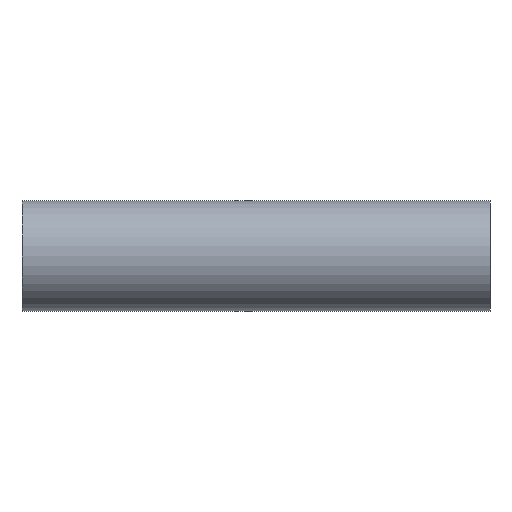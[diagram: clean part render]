
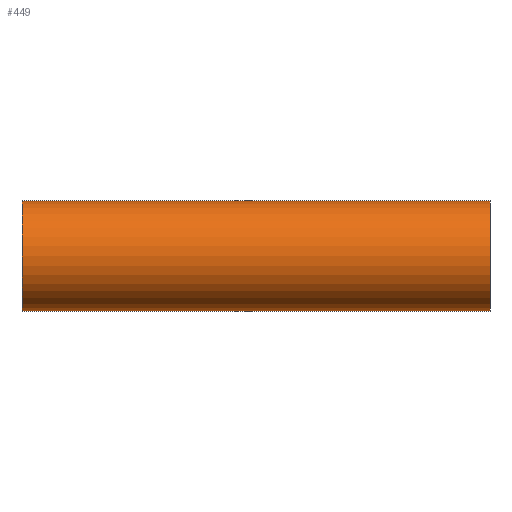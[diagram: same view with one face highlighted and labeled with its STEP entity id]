
A CAD part, front view. The second image highlights one B-rep face of the part: STEP entity #449.
In plain terms, the highlighted cylindrical face has radius 12.7 mm (diameter 25.4 mm), a partial arc.
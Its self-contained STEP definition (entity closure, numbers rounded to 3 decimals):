
#30 = ORIENTED_EDGE ( 'NONE', *, *, #104, .T. ) ;
#56 = DIRECTION ( 'NONE',  ( 1., 0., 0. ) ) ;
#60 = CIRCLE ( 'NONE', #262, 12.7 ) ;
#72 = CARTESIAN_POINT ( 'NONE',  ( -54., 0., 12.7 ) ) ;
#104 = EDGE_CURVE ( 'NONE', #214, #292, #154, .T. ) ;
#110 = VERTEX_POINT ( 'NONE', #542 ) ;
#112 = CARTESIAN_POINT ( 'NONE',  ( -54., 0., 0. ) ) ;
#124 = EDGE_LOOP ( 'NONE', ( #281, #30, #506, #392 ) ) ;
#147 = CARTESIAN_POINT ( 'NONE',  ( -54., 0., -12.7 ) ) ;
#154 = CIRCLE ( 'NONE', #409, 12.7 ) ;
#195 = LINE ( 'NONE', #311, #514 ) ;
#214 = VERTEX_POINT ( 'NONE', #72 ) ;
#248 = DIRECTION ( 'NONE',  ( 0., 0., -1. ) ) ;
#262 = AXIS2_PLACEMENT_3D ( 'NONE', #450, #536, #248 ) ;
#270 = DIRECTION ( 'NONE',  ( 0., 0., -1. ) ) ;
#276 = FACE_OUTER_BOUND ( 'NONE', #124, .T. ) ;
#281 = ORIENTED_EDGE ( 'NONE', *, *, #398, .F. ) ;
#290 = LINE ( 'NONE', #298, #499 ) ;
#292 = VERTEX_POINT ( 'NONE', #147 ) ;
#295 = VERTEX_POINT ( 'NONE', #386 ) ;
#298 = CARTESIAN_POINT ( 'NONE',  ( -54., 0., -12.7 ) ) ;
#299 = DIRECTION ( 'NONE',  ( 1., 0., 0. ) ) ;
#301 = DIRECTION ( 'NONE',  ( 1., 0., 0. ) ) ;
#311 = CARTESIAN_POINT ( 'NONE',  ( -54., 0., 12.7 ) ) ;
#386 = CARTESIAN_POINT ( 'NONE',  ( 54., 0., 12.7 ) ) ;
#392 = ORIENTED_EDGE ( 'NONE', *, *, #534, .T. ) ;
#398 = EDGE_CURVE ( 'NONE', #214, #295, #195, .T. ) ;
#409 = AXIS2_PLACEMENT_3D ( 'NONE', #489, #299, #270 ) ;
#419 = EDGE_CURVE ( 'NONE', #292, #110, #290, .T. ) ;
#431 = DIRECTION ( 'NONE',  ( 0., 0., -1. ) ) ;
#449 = ADVANCED_FACE ( 'NONE', ( #276 ), #486, .T. ) ;
#450 = CARTESIAN_POINT ( 'NONE',  ( 54., 0., 0. ) ) ;
#469 = DIRECTION ( 'NONE',  ( 1., 0., 0. ) ) ;
#486 = CYLINDRICAL_SURFACE ( 'NONE', #512, 12.7 ) ;
#489 = CARTESIAN_POINT ( 'NONE',  ( -54., 0., 0. ) ) ;
#499 = VECTOR ( 'NONE', #301, 1000. ) ;
#506 = ORIENTED_EDGE ( 'NONE', *, *, #419, .T. ) ;
#512 = AXIS2_PLACEMENT_3D ( 'NONE', #112, #56, #431 ) ;
#514 = VECTOR ( 'NONE', #469, 1000. ) ;
#534 = EDGE_CURVE ( 'NONE', #110, #295, #60, .T. ) ;
#536 = DIRECTION ( 'NONE',  ( -1., 0., 0. ) ) ;
#542 = CARTESIAN_POINT ( 'NONE',  ( 54., 0., -12.7 ) ) ;
